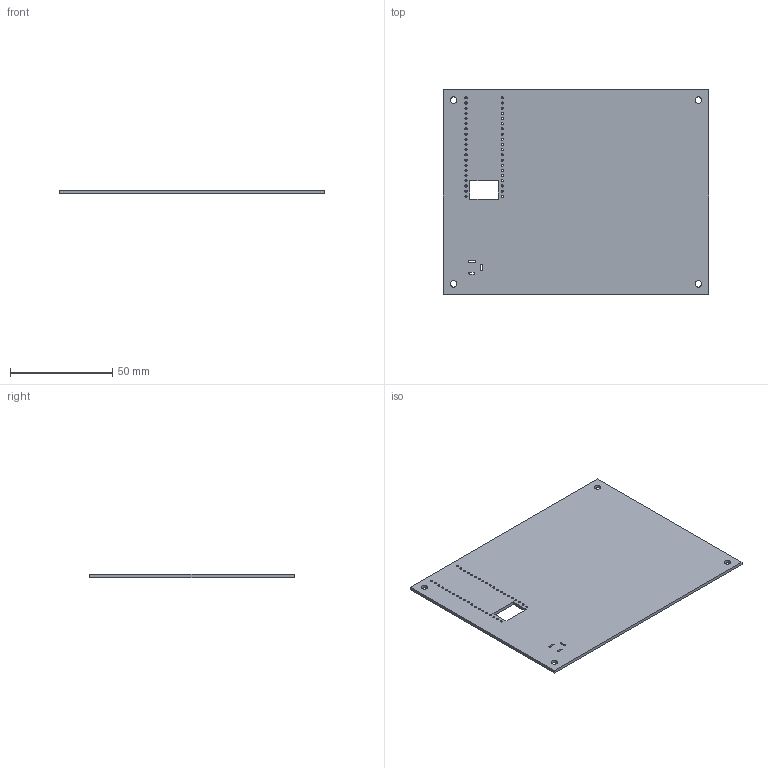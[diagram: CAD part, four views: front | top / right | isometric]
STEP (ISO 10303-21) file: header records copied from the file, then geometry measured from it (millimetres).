
FILE_DESCRIPTION(('KiCad electronic assembly'),'2;1');
FILE_NAME('SDL4-0001_REV_A_board-only.step','2026-11-05T16:30:35',( 'Pcbnew'),('Kicad'),'Open CASCADE STEP processor 7.9', 'KiCad to STEP converter','Unknown');
FILE_SCHEMA(('AUTOMOTIVE_DESIGN { 1 0 10303 214 1 1 1 1 }'));
Length unit declared in the file: millimetre
Products named in the file (2): SDL4-0001_REV_A_board-only 1; photoreactor_quad_PCB
Assembly tree (1 placements, depth 2):
  SDL4-0001_REV_A_board-only 1
    photoreactor_quad_PCB
Bounding box: 130 x 100 x 1.51 mm (x, y, z)
Volume: 19331.1 mm3; surface area: 26654.9 mm2
Topology: 1 solids, 1 shells, 66 faces, 192 edges, 128 vertices
Faces by surface type: cylinder 50, plane 16
Full cylindrical faces by diameter (mm): 1.02 x40, 3.2 x4
Entity records: 2465 total; most frequent: DIRECTION 428, CARTESIAN_POINT 388, ORIENTED_EDGE 384, EDGE_CURVE 192, AXIS2_PLACEMENT_3D 168, FACE_BOUND 162, EDGE_LOOP 162, VERTEX_POINT 128
